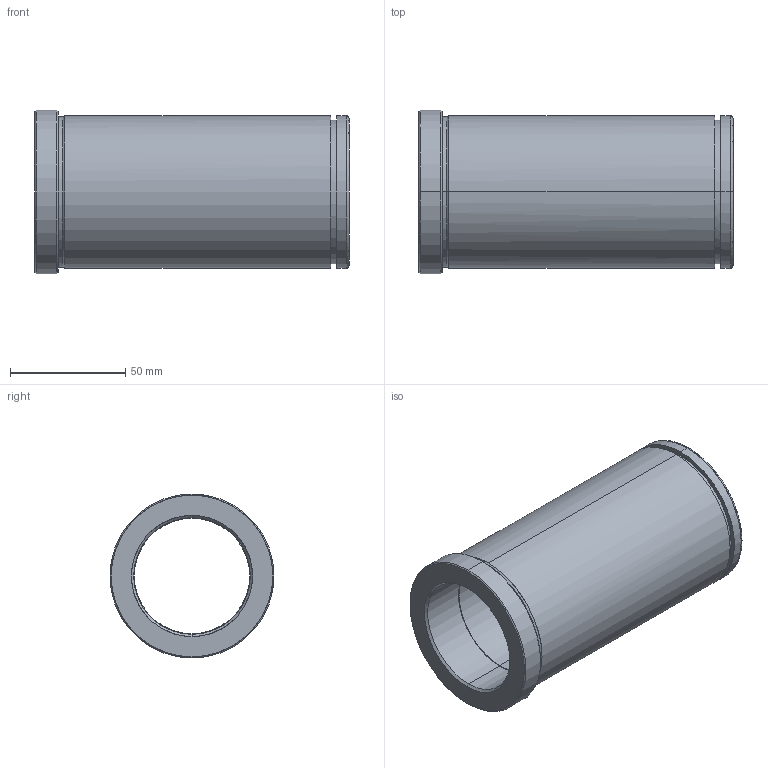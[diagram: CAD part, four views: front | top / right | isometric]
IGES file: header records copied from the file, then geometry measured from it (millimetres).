
Start section: START RECORD GO HERE.
Global section: file name: 553-50X136.igs; native system: DASSAULT SYSTEMES CATIA V5 R20 - www.3ds.com; preprocessor: CATIA Version 5 Release 20 ; author: Utente; organization: NB04-ASUS; date: 20210608.202259; units: millimetre
Bounding box: 136 x 71 x 71 mm (x, y, z)
Surface area: 54139.3 mm2 (no closed solid volume)
Topology: 0 solids, 0 shells, 32 faces, 204 edges, 204 vertices
Faces by surface type: revolution 26, plane 6
